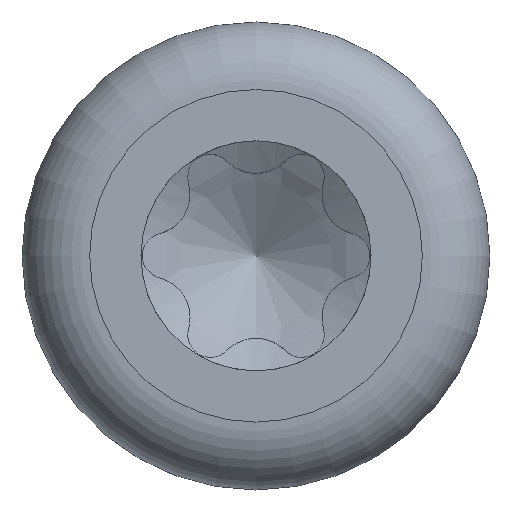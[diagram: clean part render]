
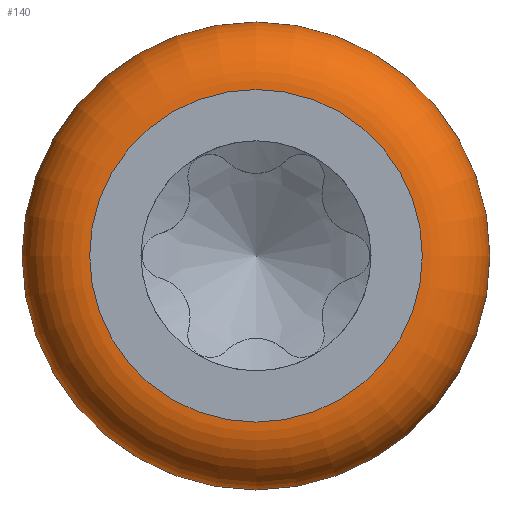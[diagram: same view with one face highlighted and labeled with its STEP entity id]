
A CAD part, top view. The second image highlights one B-rep face of the part: STEP entity #140.
In plain terms, the highlighted toroidal (fillet/blend) face has major radius 1.28 mm and minor radius 0.52 mm.
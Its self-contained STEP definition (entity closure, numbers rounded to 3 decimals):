
#103=TOROIDAL_SURFACE('',#713,1.28,0.52);
#114=FACE_BOUND('',#235,.T.);
#115=FACE_BOUND('',#236,.T.);
#140=ADVANCED_FACE('',(#114,#115),#103,.T.);
#235=EDGE_LOOP('',(#326));
#236=EDGE_LOOP('',(#327));
#286=CIRCLE('',#710,1.8);
#287=CIRCLE('',#712,1.28);
#326=ORIENTED_EDGE('',*,*,#573,.F.);
#327=ORIENTED_EDGE('',*,*,#572,.T.);
#504=VERTEX_POINT('',#1402);
#505=VERTEX_POINT('',#1405);
#572=EDGE_CURVE('',#504,#504,#286,.T.);
#573=EDGE_CURVE('',#505,#505,#287,.T.);
#710=AXIS2_PLACEMENT_3D('',#1401,#771,#772);
#712=AXIS2_PLACEMENT_3D('',#1404,#775,#776);
#713=AXIS2_PLACEMENT_3D('',#1406,#777,#778);
#771=DIRECTION('',(0.,0.,1.));
#772=DIRECTION('',(1.,0.,0.));
#775=DIRECTION('',(0.,0.,1.));
#776=DIRECTION('',(1.,0.,0.));
#777=DIRECTION('',(0.,0.,1.));
#778=DIRECTION('',(1.,0.,0.));
#1401=CARTESIAN_POINT('',(0.,0.,0.78));
#1402=CARTESIAN_POINT('',(1.8,0.,0.78));
#1404=CARTESIAN_POINT('',(0.,0.,1.3));
#1405=CARTESIAN_POINT('',(1.28,0.,1.3));
#1406=CARTESIAN_POINT('',(0.,0.,0.78));
